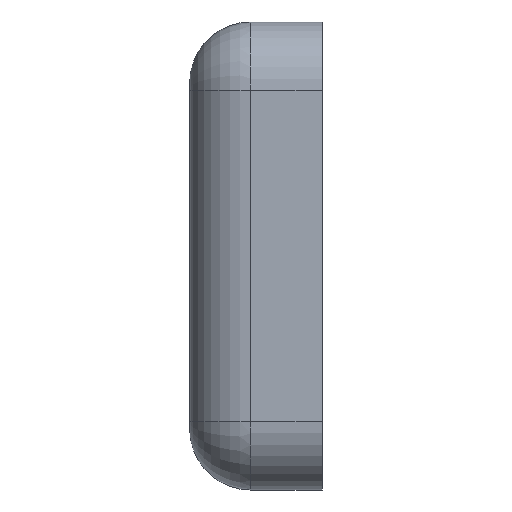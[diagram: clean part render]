
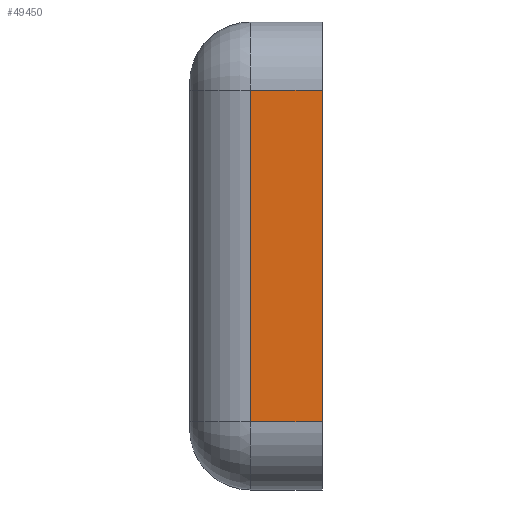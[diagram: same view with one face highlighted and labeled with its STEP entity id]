
A CAD part, left-side view. The second image highlights one B-rep face of the part: STEP entity #49450.
In plain terms, the highlighted planar face has unit normal (-1, 0, 0).
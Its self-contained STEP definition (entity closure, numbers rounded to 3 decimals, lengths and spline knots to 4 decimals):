
#1021 = VECTOR ( 'NONE', #3877, 39.3701 ) ;
#2276 = AXIS2_PLACEMENT_3D ( 'NONE', #29276, #26190, #41778 ) ;
#3407 = EDGE_CURVE ( 'NONE', #8690, #8733, #19716, .T. ) ;
#3877 = DIRECTION ( 'NONE',  ( 0., 1., 0. ) ) ;
#4651 = EDGE_CURVE ( 'NONE', #8690, #18153, #22155, .T. ) ;
#6328 = CARTESIAN_POINT ( 'NONE',  ( -7.8077, 0., -2.1407 ) ) ;
#6745 = CARTESIAN_POINT ( 'NONE',  ( -7.8077, 1.18, 2.7217 ) ) ;
#6776 = VECTOR ( 'NONE', #34513, 39.3701 ) ;
#7102 = CARTESIAN_POINT ( 'NONE',  ( -7.8077, 1.18, -2.7217 ) ) ;
#8690 = VERTEX_POINT ( 'NONE', #34179 ) ;
#8733 = VERTEX_POINT ( 'NONE', #7102 ) ;
#10036 = VECTOR ( 'NONE', #10650, 39.3701 ) ;
#10650 = DIRECTION ( 'NONE',  ( 0., 0., 1. ) ) ;
#11601 = LINE ( 'NONE', #6745, #20322 ) ;
#15621 = LINE ( 'NONE', #19946, #6776 ) ;
#16496 = ORIENTED_EDGE ( 'NONE', *, *, #4651, .T. ) ;
#17935 = CARTESIAN_POINT ( 'NONE',  ( -7.8077, 0., 2.7217 ) ) ;
#18153 = VERTEX_POINT ( 'NONE', #17935 ) ;
#19716 = LINE ( 'NONE', #39865, #1021 ) ;
#19946 = CARTESIAN_POINT ( 'NONE',  ( -7.8077, -0.6768, 2.7217 ) ) ;
#20322 = VECTOR ( 'NONE', #50409, 39.3701 ) ;
#21877 = PLANE ( 'NONE',  #2276 ) ;
#22032 = VERTEX_POINT ( 'NONE', #30277 ) ;
#22155 = LINE ( 'NONE', #6328, #10036 ) ;
#22369 = FACE_OUTER_BOUND ( 'NONE', #22758, .T. ) ;
#22758 = EDGE_LOOP ( 'NONE', ( #30179, #25174, #34774, #16496 ) ) ;
#24520 = EDGE_CURVE ( 'NONE', #22032, #8733, #11601, .T. ) ;
#25174 = ORIENTED_EDGE ( 'NONE', *, *, #24520, .T. ) ;
#26190 = DIRECTION ( 'NONE',  ( 1., 0., 0. ) ) ;
#29276 = CARTESIAN_POINT ( 'NONE',  ( -7.8077, -0.6768, 2.7217 ) ) ;
#30179 = ORIENTED_EDGE ( 'NONE', *, *, #34313, .T. ) ;
#30277 = CARTESIAN_POINT ( 'NONE',  ( -7.8077, 1.18, 2.7217 ) ) ;
#34179 = CARTESIAN_POINT ( 'NONE',  ( -7.8077, 0., -2.7217 ) ) ;
#34313 = EDGE_CURVE ( 'NONE', #18153, #22032, #15621, .T. ) ;
#34513 = DIRECTION ( 'NONE',  ( 0., 1., 0. ) ) ;
#34774 = ORIENTED_EDGE ( 'NONE', *, *, #3407, .F. ) ;
#39865 = CARTESIAN_POINT ( 'NONE',  ( -7.8077, -0.6768, -2.7217 ) ) ;
#41778 = DIRECTION ( 'NONE',  ( 0., 0., -1. ) ) ;
#49450 = ADVANCED_FACE ( 'NONE', ( #22369 ), #21877, .F. ) ;
#50409 = DIRECTION ( 'NONE',  ( 0., 0., -1. ) ) ;
